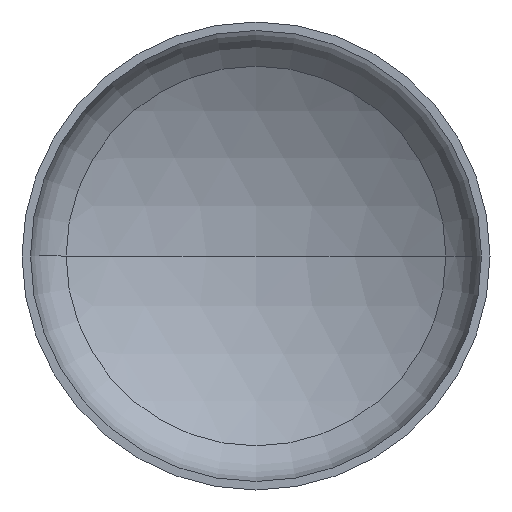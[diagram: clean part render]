
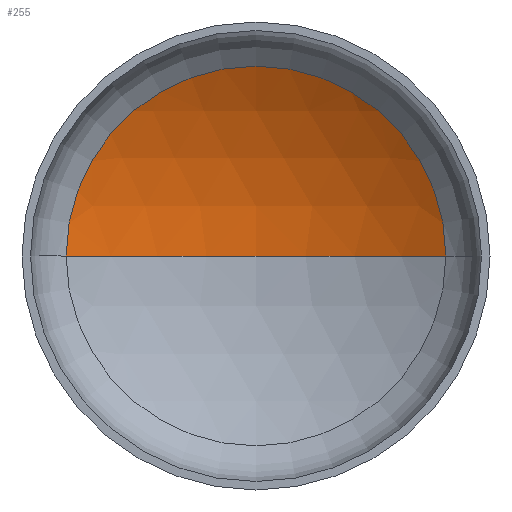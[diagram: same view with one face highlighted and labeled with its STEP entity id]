
A CAD part, front view. The second image highlights one B-rep face of the part: STEP entity #255.
In plain terms, the highlighted spherical face has radius 3600 mm.
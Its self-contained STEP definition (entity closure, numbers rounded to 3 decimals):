
#8 = AXIS2_PLACEMENT_3D ( 'NONE', #219, #134, #135 ) ;
#15 = AXIS2_PLACEMENT_3D ( 'NONE', #156, #158, #170 ) ;
#18 = AXIS2_PLACEMENT_3D ( 'NONE', #21, #19, #83 ) ;
#19 = DIRECTION ( 'NONE',  ( 0., 0., -1. ) ) ;
#21 = CARTESIAN_POINT ( 'NONE',  ( 0., -2403.856, 0. ) ) ;
#23 = AXIS2_PLACEMENT_3D ( 'NONE', #163, #164, #144 ) ;
#61 = EDGE_LOOP ( 'NONE', ( #309, #228, #332 ) ) ;
#70 = EDGE_CURVE ( 'NONE', #221, #300, #400, .T. ) ;
#81 = CARTESIAN_POINT ( 'NONE',  ( -1825.404, 699.029, 0. ) ) ;
#83 = DIRECTION ( 'NONE',  ( -1., 0., 0. ) ) ;
#88 = VERTEX_POINT ( 'NONE', #146 ) ;
#93 = EDGE_CURVE ( 'NONE', #88, #221, #314, .T. ) ;
#114 = EDGE_CURVE ( 'NONE', #88, #300, #241, .T. ) ;
#129 = CARTESIAN_POINT ( 'NONE',  ( 1825.404, 699.029, 0. ) ) ;
#134 = DIRECTION ( 'NONE',  ( 0., 0., -1. ) ) ;
#135 = DIRECTION ( 'NONE',  ( -1., 0., 0. ) ) ;
#144 = DIRECTION ( 'NONE',  ( 1., 0., 0. ) ) ;
#146 = CARTESIAN_POINT ( 'NONE',  ( 0., 1196.144, 0. ) ) ;
#156 = CARTESIAN_POINT ( 'NONE',  ( 0., -2403.856, 0. ) ) ;
#158 = DIRECTION ( 'NONE',  ( 0., 0., 1. ) ) ;
#163 = CARTESIAN_POINT ( 'NONE',  ( 0., 699.029, 0. ) ) ;
#164 = DIRECTION ( 'NONE',  ( 0., -1., 0. ) ) ;
#170 = DIRECTION ( 'NONE',  ( 1., 0., 0. ) ) ;
#219 = CARTESIAN_POINT ( 'NONE',  ( 0., -2403.856, 0. ) ) ;
#221 = VERTEX_POINT ( 'NONE', #129 ) ;
#228 = ORIENTED_EDGE ( 'NONE', *, *, #93, .T. ) ;
#232 = SPHERICAL_SURFACE ( 'NONE', #8, 3600. ) ;
#241 = CIRCLE ( 'NONE', #15, 3600. ) ;
#255 = ADVANCED_FACE ( 'NONE', ( #298 ), #232, .F. ) ;
#298 = FACE_OUTER_BOUND ( 'NONE', #61, .T. ) ;
#300 = VERTEX_POINT ( 'NONE', #81 ) ;
#309 = ORIENTED_EDGE ( 'NONE', *, *, #114, .F. ) ;
#314 = CIRCLE ( 'NONE', #18, 3600. ) ;
#332 = ORIENTED_EDGE ( 'NONE', *, *, #70, .T. ) ;
#400 = CIRCLE ( 'NONE', #23, 1825.404 ) ;
